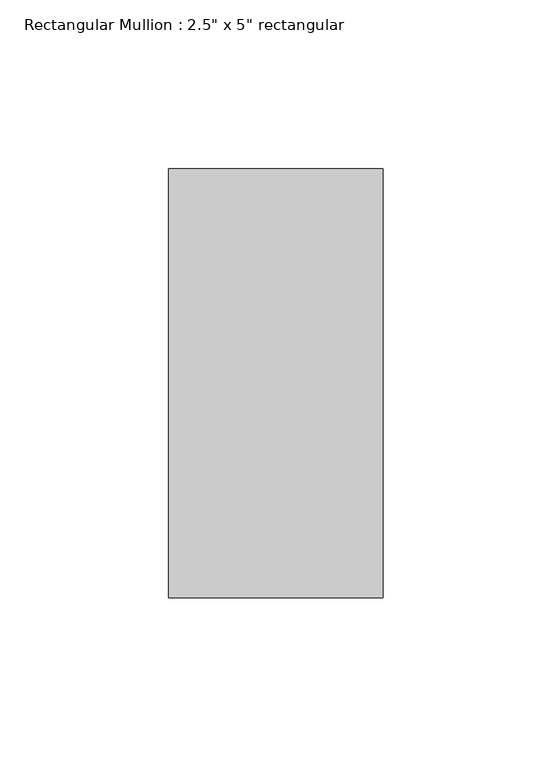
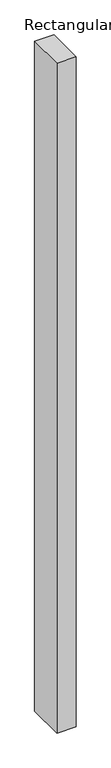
"""IFC4 building model written with IfcOpenShell, lengths in millimetres: member geometry."""

from ifc_helpers import new_model, si_unit, frame, origin, place, context, project, spatial, polyline, outline, extrude, source, transform, mapped, element, save


def member_2d95a7ea(model_context):
    return source(origin(), model_context, "Body", "SweptSolid", [
        extrude(outline(polyline([(31.75, 63.5), (31.75, -63.5), (-31.75, -63.5), (-31.75, 63.5), (31.75, 63.5)])), frame((0.0, 0.0, -2343.1500002), z_axis=(0.0, 0.0, 1.0), x_axis=(1.0, 0.0, 0.0)), (0.0, 0.0, 1.0), 2343.1500002),
    ])


if __name__ == "__main__":
    model = new_model("IFC4")
    model_context = context("Model", 3, world=origin())
    ifc_project = project(units=[si_unit("LENGTHUNIT", "METRE", prefix="MILLI")], contexts=[model_context])
    site = spatial("IfcSite", under=ifc_project)
    building = spatial("IfcBuilding", under=site)
    placement = place(None, origin())
    member_shape = member_2d95a7ea(model_context)
    element("IfcMember", 1, ObjectType="Rectangular Mullion : 2.5\" x 5\" rectangular", at=placement, inside=building, context=model_context, shape_type="MappedRepresentation", body=[
        mapped(member_shape, transform((0.0, 0.0, 0.0), x_axis=(1.0, 0.0, 0.0), y_axis=(0.0, 1.0, 0.0), z_axis=(0.0, 0.0, 1.0))),
    ])
    save(model, "model.ifc")
